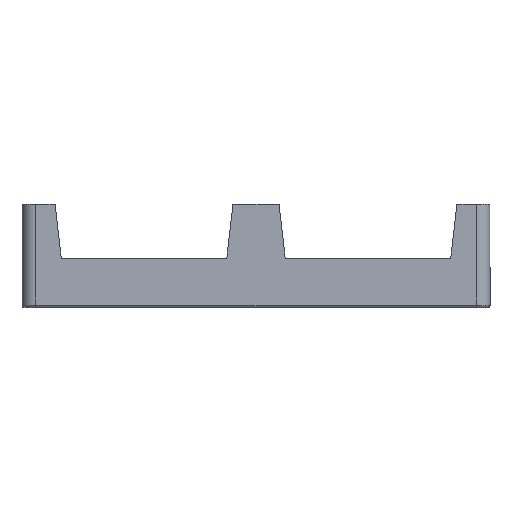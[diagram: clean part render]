
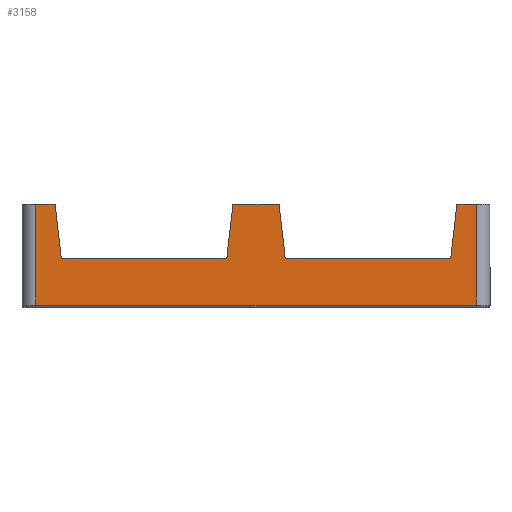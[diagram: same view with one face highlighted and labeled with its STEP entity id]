
A CAD part, left-side view. The second image highlights one B-rep face of the part: STEP entity #3158.
In plain terms, the highlighted planar face has unit normal (-1, 0, 0).
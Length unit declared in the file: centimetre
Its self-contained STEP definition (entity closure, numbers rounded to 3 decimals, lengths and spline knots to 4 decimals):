
#479=FACE_OUTER_BOUND($,#764,.T.);
#764=EDGE_LOOP($,(#2529,#2530,#2531,#2532,#2533,#2534,#2535,#2536,#2537,
#2538,#2539,#2540));
#1038=LINE($,#5164,#1294);
#1041=LINE($,#5170,#1297);
#1043=LINE($,#5173,#1299);
#1045=LINE($,#5177,#1301);
#1046=LINE($,#5180,#1302);
#1049=LINE($,#5189,#1305);
#1050=LINE($,#5191,#1306);
#1051=LINE($,#5193,#1307);
#1052=LINE($,#5195,#1308);
#1053=LINE($,#5197,#1309);
#1054=LINE($,#5199,#1310);
#1055=LINE($,#5200,#1311);
#1294=VECTOR($,#4174,1.1782);
#1297=VECTOR($,#4179,1.1782);
#1299=VECTOR($,#4183,3.5929);
#1301=VECTOR($,#4187,1.);
#1302=VECTOR($,#4190,0.418);
#1305=VECTOR($,#4199,1.1782);
#1306=VECTOR($,#4200,3.5929);
#1307=VECTOR($,#4201,1.1782);
#1308=VECTOR($,#4202,0.418);
#1309=VECTOR($,#4203,2.19);
#1310=VECTOR($,#4204,9.56);
#1311=VECTOR($,#4205,2.19);
#1616=VERTEX_POINT($,#5161);
#1617=VERTEX_POINT($,#5163);
#1618=VERTEX_POINT($,#5167);
#1619=VERTEX_POINT($,#5169);
#1620=VERTEX_POINT($,#5175);
#1621=VERTEX_POINT($,#5179);
#1624=VERTEX_POINT($,#5188);
#1625=VERTEX_POINT($,#5190);
#1626=VERTEX_POINT($,#5192);
#1627=VERTEX_POINT($,#5194);
#1628=VERTEX_POINT($,#5196);
#1629=VERTEX_POINT($,#5198);
#1953=EDGE_CURVE($,#1617,#1616,#1038,.T.);
#1956=EDGE_CURVE($,#1619,#1618,#1041,.T.);
#1958=EDGE_CURVE($,#1616,#1619,#1043,.T.);
#1960=EDGE_CURVE($,#1620,#1618,#1045,.F.);
#1961=EDGE_CURVE($,#1617,#1621,#1046,.F.);
#1966=EDGE_CURVE($,#1620,#1624,#1049,.T.);
#1967=EDGE_CURVE($,#1624,#1625,#1050,.T.);
#1968=EDGE_CURVE($,#1625,#1626,#1051,.T.);
#1969=EDGE_CURVE($,#1627,#1626,#1052,.F.);
#1970=EDGE_CURVE($,#1628,#1627,#1053,.T.);
#1971=EDGE_CURVE($,#1629,#1628,#1054,.T.);
#1972=EDGE_CURVE($,#1621,#1629,#1055,.T.);
#2529=ORIENTED_EDGE($,*,*,#1953,.T.);
#2530=ORIENTED_EDGE($,*,*,#1958,.T.);
#2531=ORIENTED_EDGE($,*,*,#1956,.T.);
#2532=ORIENTED_EDGE($,*,*,#1960,.F.);
#2533=ORIENTED_EDGE($,*,*,#1966,.T.);
#2534=ORIENTED_EDGE($,*,*,#1967,.T.);
#2535=ORIENTED_EDGE($,*,*,#1968,.T.);
#2536=ORIENTED_EDGE($,*,*,#1969,.F.);
#2537=ORIENTED_EDGE($,*,*,#1970,.F.);
#2538=ORIENTED_EDGE($,*,*,#1971,.F.);
#2539=ORIENTED_EDGE($,*,*,#1972,.F.);
#2540=ORIENTED_EDGE($,*,*,#1961,.F.);
#2997=PLANE($,#3465);
#3158=ADVANCED_FACE($,(#479),#2997,.F.);
#3465=AXIS2_PLACEMENT_3D($,#5187,#4197,#4198);
#4174=DIRECTION($,(0.,0.114,-0.993));
#4179=DIRECTION($,(0.,0.114,0.993));
#4183=DIRECTION($,(0.,1.,0.));
#4187=DIRECTION($,(0.,1.,0.));
#4190=DIRECTION($,(0.,1.,0.));
#4197=DIRECTION('center_axis',(1.,0.,0.));
#4198=DIRECTION('ref_axis',(0.,0.,-1.));
#4199=DIRECTION($,(0.,0.114,-0.993));
#4200=DIRECTION($,(0.,1.,0.));
#4201=DIRECTION($,(0.,0.114,0.993));
#4202=DIRECTION($,(0.,1.,0.));
#4203=DIRECTION($,(0.,0.,1.));
#4204=DIRECTION($,(0.,1.,0.));
#4205=DIRECTION($,(0.,0.,-1.));
#5161=CARTESIAN_POINT('',(-22.856,-74.2004,0.16));
#5163=CARTESIAN_POINT('',(-22.856,-74.335,1.3305));
#5164=CARTESIAN_POINT($,(-22.856,-74.1809,-0.0103));
#5167=CARTESIAN_POINT('',(-22.856,-70.473,1.3305));
#5169=CARTESIAN_POINT('',(-22.856,-70.6075,0.16));
#5170=CARTESIAN_POINT($,(-22.856,-70.5954,0.2655));
#5173=CARTESIAN_POINT($,(-22.856,-69.973,0.16));
#5175=CARTESIAN_POINT('',(-22.856,-69.473,1.3305));
#5177=CARTESIAN_POINT($,(-22.856,-69.973,1.3305));
#5179=CARTESIAN_POINT('',(-22.856,-74.753,1.3305));
#5180=CARTESIAN_POINT($,(-22.856,-69.973,1.3305));
#5187=CARTESIAN_POINT('Origin',(-22.856,-69.973,-0.0295));
#5188=CARTESIAN_POINT('',(-22.856,-69.3384,0.16));
#5189=CARTESIAN_POINT($,(-22.856,-69.3506,0.2655));
#5190=CARTESIAN_POINT('',(-22.856,-65.7455,0.16));
#5191=CARTESIAN_POINT($,(-22.856,-69.973,0.16));
#5192=CARTESIAN_POINT('',(-22.856,-65.611,1.3305));
#5193=CARTESIAN_POINT($,(-22.856,-65.7651,-0.0103));
#5194=CARTESIAN_POINT('',(-22.856,-65.193,1.3305));
#5195=CARTESIAN_POINT($,(-22.856,-69.973,1.3305));
#5196=CARTESIAN_POINT('',(-22.856,-65.193,-0.8595));
#5197=CARTESIAN_POINT($,(-22.856,-65.193,-0.0295));
#5198=CARTESIAN_POINT('',(-22.856,-74.753,-0.8595));
#5199=CARTESIAN_POINT($,(-22.856,-69.973,-0.8595));
#5200=CARTESIAN_POINT($,(-22.856,-74.753,-0.0295));
